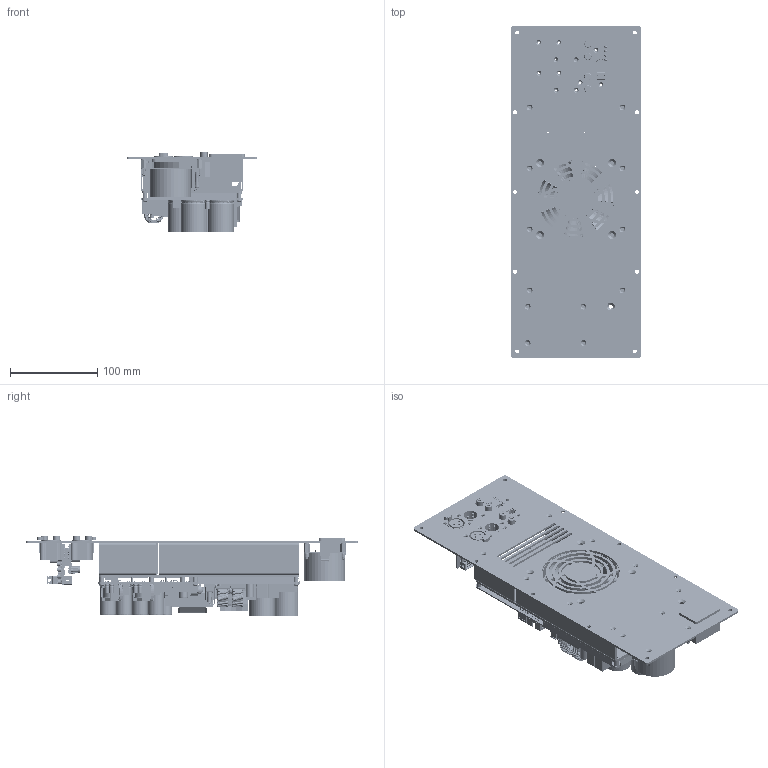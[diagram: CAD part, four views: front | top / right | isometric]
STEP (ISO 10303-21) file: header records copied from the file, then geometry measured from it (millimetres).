
FILE_DESCRIPTION (( 'STEP AP214' ), '1' );
FILE_NAME ('FusionAMP FA502 03xx.STEP', '2019-09-13T13:31:14', ( '' ), ( '' ), 'SwSTEP 2.0', 'SolidWorks 2017', '' );
FILE_SCHEMA (( 'AUTOMOTIVE_DESIGN' ));
Length unit declared in the file: millimetre
Products named in the file (15): PCBA MP-DSP Digin B01; Push-in nut; HSink air-outlet FA50x; NC502MP 01xx; FusionAMP FA502 03xx; PCBA LDT3 Adapter Fused B02; Frontplate FA502; PCBA MP-DSP Main B01; HSink air-inlet FA50x; Fan 92x92x25_KD1209PTS3; FanKD1209PTS3_KD1209PTS3; Fan_HouseKD1209PTS3_KD1209PTS3; IEC Euro Switch
Assembly tree (21 placements, depth 3):
  FusionAMP FA502 03xx
    PCBA MP-DSP Digin B01
    NC502MP 01xx
    PCBA LDT3 Adapter Fused B02
    PCBA MP-DSP Main B01
    Fan 92x92x25_KD1209PTS3
      Fan_HouseKD1209PTS3_KD1209PTS3
      FanKD1209PTS3_KD1209PTS3
    HSink air-outlet FA50x
      HSink air-outlet FA50x
      Push-in nut  x2
    HSink air-inlet FA50x
      HSink air-inlet FA50x
      Push-in nut  x6
    IEC Euro Switch
    Frontplate FA502
Bounding box: 150 x 381 x 92 mm (x, y, z)
Volume: 360625.2 mm3; surface area: 565596.7 mm2
Topology: 66 solids, 958 shells, 29769 faces, 80362 edges, 51744 vertices
Faces by surface type: plane 16555, cylinder 6794, bspline 5545, torus 498, sphere 240, cone 137
Entity records: 1295628 total; most frequent: CARTESIAN_POINT 407841, ORIENTED_EDGE 128931, DIRECTION 116290, EDGE_CURVE 68046, VERTEX_POINT 44113, LINE 40590, VECTOR 40590, AXIS2_PLACEMENT_3D 37850
